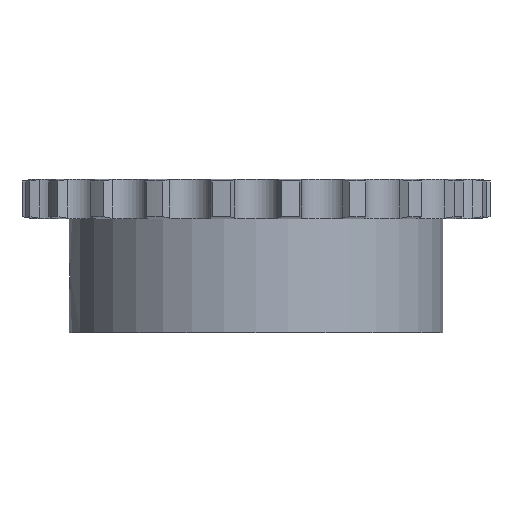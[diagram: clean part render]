
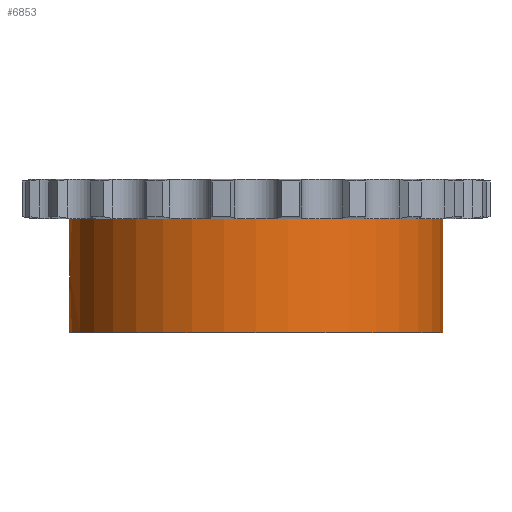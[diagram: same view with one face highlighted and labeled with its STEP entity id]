
A CAD part, front view. The second image highlights one B-rep face of the part: STEP entity #6853.
In plain terms, the highlighted cylindrical face has radius 34 mm (diameter 68 mm), a partial arc.
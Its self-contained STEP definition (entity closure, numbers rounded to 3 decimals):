
#1179=CARTESIAN_POINT('',(0.,0.,-3.6));
#1180=DIRECTION('',(0.,0.,1.));
#1181=DIRECTION('',(-1.,0.,0.));
#1182=AXIS2_PLACEMENT_3D('',#1179,#1180,#1181);
#3410=CARTESIAN_POINT('',(-34.,0.,
-11.));
#3432=DIRECTION('',(0.,0.,1.));
#3433=VECTOR('',#3432,20.8);
#3434=CARTESIAN_POINT('',(34.,0.,-24.4));
#3435=LINE('',#3434,#3433);
#3551=CARTESIAN_POINT('',(-34.,0.,
-11.));
#3552=CARTESIAN_POINT('',(-34.,-0.16,
-11.));
#3553=CARTESIAN_POINT('',(-33.998,-0.477,
-11.024));
#3554=CARTESIAN_POINT('',(-33.988,-0.954,
-11.136));
#3555=CARTESIAN_POINT('',(-33.972,-1.407,
-11.322));
#3556=CARTESIAN_POINT('',(-33.952,-1.819,
-11.574));
#3557=CARTESIAN_POINT('',(-33.93,-2.183,
-11.883));
#3558=CARTESIAN_POINT('',(-33.909,-2.495,
-12.245));
#3559=CARTESIAN_POINT('',(-33.889,-2.745,
-12.654));
#3560=CARTESIAN_POINT('',(-33.874,-2.926,
-13.093));
#3561=CARTESIAN_POINT('',(-33.864,-3.033,
-13.55));
#3562=CARTESIAN_POINT('',(-33.862,-3.056,
-13.85));
#3563=CARTESIAN_POINT('',(-33.862,-3.056,
-14.));
#3568=DIRECTION('',(0.,0.,1.));
#3569=VECTOR('',#3568,7.4);
#3570=CARTESIAN_POINT('',(-34.,0.,
-11.));
#3571=LINE('',#3570,#3569);
#3575=DIRECTION('',(0.,0.,1.));
#3576=VECTOR('',#3575,7.4);
#3577=CARTESIAN_POINT('',(-34.,0.,-24.4));
#3578=LINE('',#3577,#3576);
#3582=CARTESIAN_POINT('',(-33.862,-3.056,
-14.));
#3583=CARTESIAN_POINT('',(-33.862,-3.056,
-14.15));
#3584=CARTESIAN_POINT('',(-33.864,-3.034,
-14.45));
#3585=CARTESIAN_POINT('',(-33.874,-2.927,
-14.905));
#3586=CARTESIAN_POINT('',(-33.889,-2.746,
-15.345));
#3587=CARTESIAN_POINT('',(-33.909,-2.496,
-15.753));
#3588=CARTESIAN_POINT('',(-33.93,-2.184,
-16.116));
#3589=CARTESIAN_POINT('',(-33.952,-1.82,
-16.426));
#3590=CARTESIAN_POINT('',(-33.972,-1.407,
-16.677));
#3591=CARTESIAN_POINT('',(-33.988,-0.955,
-16.863));
#3592=CARTESIAN_POINT('',(-33.998,-0.478,
-16.976));
#3593=CARTESIAN_POINT('',(-34.,-0.16,
-17.));
#3594=CARTESIAN_POINT('',(-34.,0.,
-17.));
#3607=CARTESIAN_POINT('',(0.,0.,-24.4));
#3608=DIRECTION('',(0.,0.,-1.));
#3609=DIRECTION('',(1.,0.,0.));
#3610=AXIS2_PLACEMENT_3D('',#3607,#3608,#3609);
#4000=CARTESIAN_POINT('',(-34.,0.,-24.4));
#4001=CARTESIAN_POINT('',(34.,0.,-24.4));
#4002=VERTEX_POINT('',#4000);
#4003=VERTEX_POINT('',#4001);
#4004=CARTESIAN_POINT('',(34.,0.,-3.6));
#4005=VERTEX_POINT('',#4004);
#4006=CARTESIAN_POINT('',(-34.,0.,-3.6));
#4007=VERTEX_POINT('',#4006);
#4231=VERTEX_POINT('',#3410);
#4234=VERTEX_POINT('',#3563);
#4236=VERTEX_POINT('',#3594);
#6837=CARTESIAN_POINT('',(0.,0.,3.6));
#6838=DIRECTION('',(0.,0.,1.));
#6839=DIRECTION('',(1.,0.,0.));
#6840=AXIS2_PLACEMENT_3D('',#6837,#6838,#6839);
#6841=CYLINDRICAL_SURFACE('',#6840,34.);
#6842=ORIENTED_EDGE('',*,*,#6827,.F.);
#6843=ORIENTED_EDGE('',*,*,#6458,.T.);
#6844=ORIENTED_EDGE('',*,*,#5443,.T.);
#6845=ORIENTED_EDGE('',*,*,#6455,.F.);
#6847=ORIENTED_EDGE('',*,*,#6846,.T.);
#6848=ORIENTED_EDGE('',*,*,#6451,.T.);
#6850=ORIENTED_EDGE('',*,*,#6849,.F.);
#6851=EDGE_LOOP('',(#6842,#6843,#6844,#6845,#6847,#6848,#6850));
#6852=FACE_OUTER_BOUND('',#6851,.F.);
#6853=ADVANCED_FACE('',(#6852),#6841,.T.);
#1183=CIRCLE('',#1182,34.);
#3564=B_SPLINE_CURVE_WITH_KNOTS('',3,(#3551,#3552,#3553,#3554,#3555,#3556,#3557,
#3558,#3559,#3560,#3561,#3562,#3563),.UNSPECIFIED.,.F.,.F.,(4,1,1,1,1,1,1,1,1,1,
4),(0.,0.1,0.2,0.3,0.4,0.5,0.6,0.7,0.8,0.9,1.),
.UNSPECIFIED.);
#3595=B_SPLINE_CURVE_WITH_KNOTS('',3,(#3582,#3583,#3584,#3585,#3586,#3587,#3588,
#3589,#3590,#3591,#3592,#3593,#3594),.UNSPECIFIED.,.F.,.F.,(4,1,1,1,1,1,1,1,1,1,
4),(0.,0.1,0.2,0.3,0.4,0.5,0.6,0.7,0.8,0.9,1.),
.UNSPECIFIED.);
#3611=CIRCLE('',#3610,34.);
#5443=EDGE_CURVE('',#4007,#4005,#1183,.T.);
#6451=EDGE_CURVE('',#4002,#4236,#3578,.T.);
#6455=EDGE_CURVE('',#4003,#4005,#3435,.T.);
#6458=EDGE_CURVE('',#4231,#4007,#3571,.T.);
#6827=EDGE_CURVE('',#4231,#4234,#3564,.T.);
#6846=EDGE_CURVE('',#4003,#4002,#3611,.T.);
#6849=EDGE_CURVE('',#4234,#4236,#3595,.T.);
